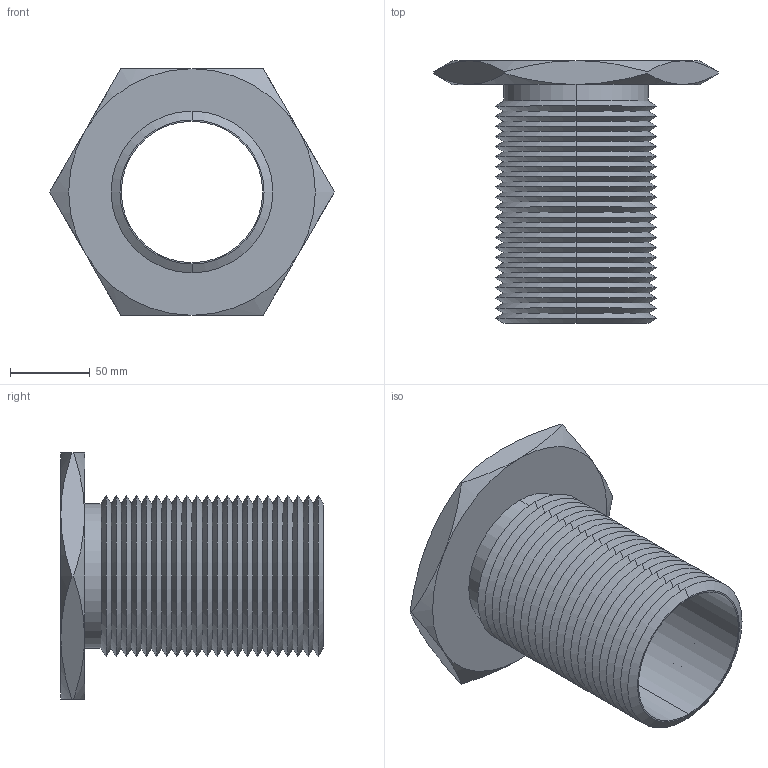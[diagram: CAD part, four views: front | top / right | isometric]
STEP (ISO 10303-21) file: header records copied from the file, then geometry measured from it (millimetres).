
FILE_DESCRIPTION (( 'STEP AP203' ), '1' );
FILE_NAME ('63302.W5400_3,50 UNC-4.step', '2013-12-08T12:05:36', ( 'User' ), ( '' ), 'SwSTEP 2.0', 'SolidWorks 2009', '' );
FILE_SCHEMA (( 'CONFIG_CONTROL_DESIGN' ));
Length unit declared in the file: millimetre
Products named in the file (1): 63302.W5400_3,50 UNC-4
Bounding box: 178.98 x 165 x 155 mm (x, y, z)
Volume: 354743.3 mm3; surface area: 167683.1 mm2
Topology: 1 solids, 1 shells, 115 faces, 234 edges, 122 vertices
Faces by surface type: cone 102, plane 9, cylinder 4
Entity records: 3179 total; most frequent: CARTESIAN_POINT 696, DIRECTION 552, ORIENTED_EDGE 468, EDGE_CURVE 234, AXIS2_PLACEMENT_3D 226, VERTEX_POINT 122, EDGE_LOOP 118, ADVANCED_FACE 115
